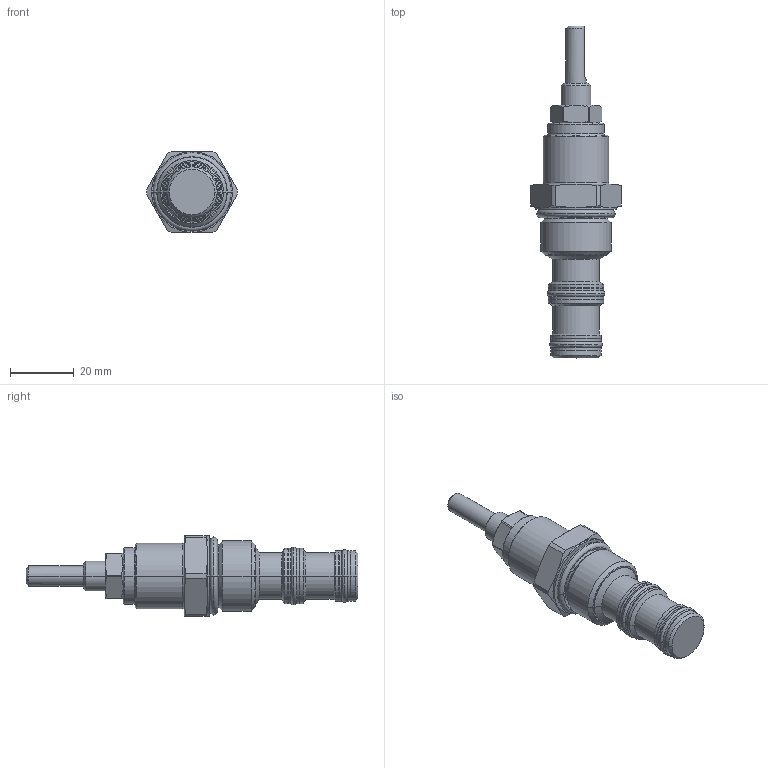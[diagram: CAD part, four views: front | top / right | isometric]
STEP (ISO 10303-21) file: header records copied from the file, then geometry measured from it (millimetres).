
FILE_DESCRIPTION((''),'2;1');
FILE_NAME('5413800_SW0001','2009-05-22T',('jcs'),(''),'PRO/ENGINEER BY PARAMETRIC TECHNOLOGY CORPORATION, 2008510','PRO/ENGINEER BY PARAMETRIC TECHNOLOGY CORPORATION, 2008510','');
FILE_SCHEMA(('CONFIG_CONTROL_DESIGN'));
Length unit declared in the file: inch
Products named in the file (1): 5413800_SW0001
Bounding box: 28.57 x 104.31 x 25.4 mm (x, y, z)
Volume: 23959.4 mm3; surface area: 8485.4 mm2
Topology: 5 solids, 5 shells, 195 faces, 415 edges, 237 vertices
Faces by surface type: cylinder 60, cone 48, torus 32, plane 31, revolution 24
Entity records: 5909 total; most frequent: CARTESIAN_POINT 1627, DIRECTION 953, ORIENTED_EDGE 830, EDGE_CURVE 415, AXIS2_PLACEMENT_3D 411, CIRCLE 240, VERTEX_POINT 237, EDGE_LOOP 210
